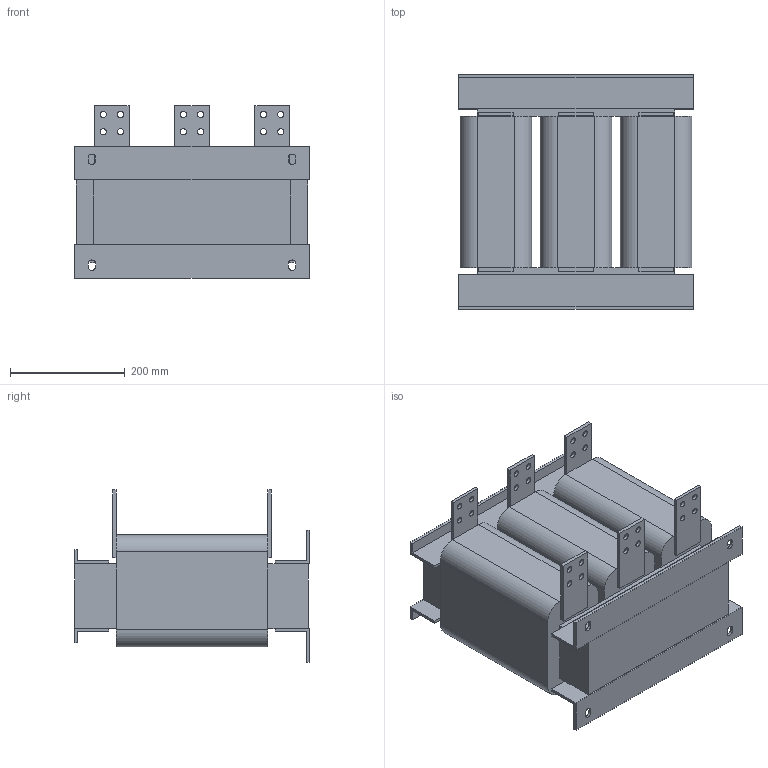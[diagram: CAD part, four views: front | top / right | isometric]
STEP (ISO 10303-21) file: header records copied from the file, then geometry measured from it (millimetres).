
FILE_DESCRIPTION(/* description */ (''),/* implementation_level */ '2;1');
FILE_NAME(/* name */ 'E:\Работа\Веда МК (Данфосс)\!Текущие задачи\2024.08.30 3D модели\Дроссели\ACO 1-проц 660 В\STP\ACO-C-0932-T6.stp',/* time_stamp */ '2024-11-02T15:34:45+04:00',/* author */ ('Александр (огранич)'),/* organization */ (''),/* preprocessor_version */ 'ST-DEVELOPER v18.1',/* originating_system */ 'Autodesk Inventor 2021',/* authorisation */ '');
FILE_SCHEMA (('AUTOMOTIVE_DESIGN { 1 0 10303 214 3 1 1 }'));
Length unit declared in the file: millimetre
Products named in the file (1): ACO-0015-T4-4
Bounding box: 410 x 410 x 300.5 mm (x, y, z)
Volume: 25468755.1 mm3; surface area: 1082752.2 mm2
Topology: 3 solids, 3 shells, 154 faces, 436 edges, 284 vertices
Faces by surface type: plane 110, cylinder 44
Full cylindrical faces by diameter (mm): 11 x24
Entity records: 5119 total; most frequent: CARTESIAN_POINT 875, ORIENTED_EDGE 872, DIRECTION 846, EDGE_CURVE 436, LINE 336, VECTOR 336, VERTEX_POINT 284, AXIS2_PLACEMENT_3D 255
